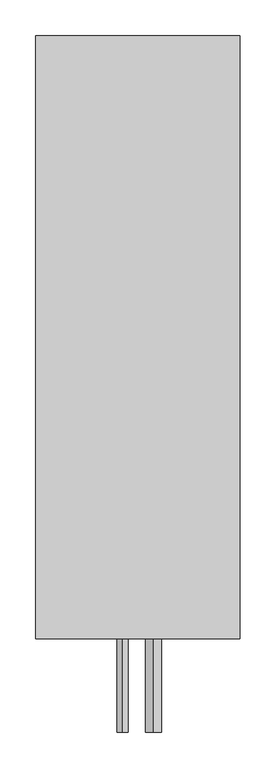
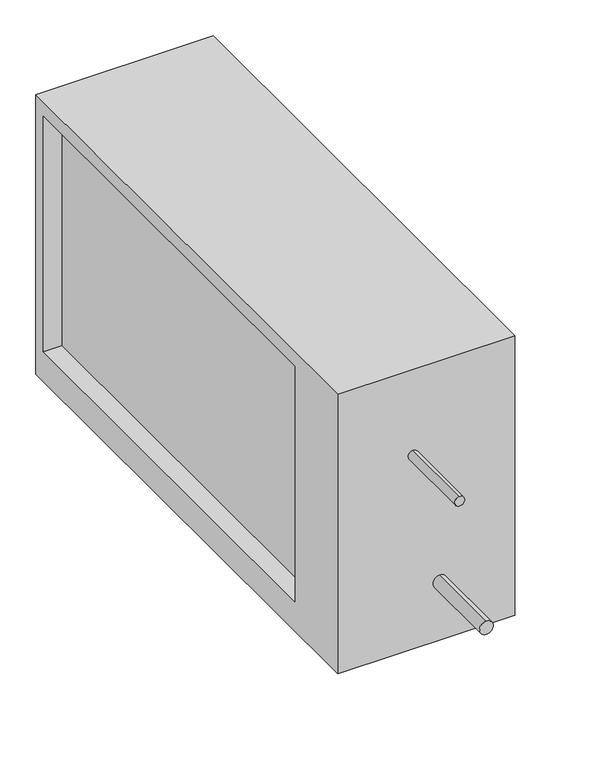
"""IFC4 building model written with IfcOpenShell, lengths in millimetres: proxy geometry, СВ_ВоздухоохладительФреоновый_КанальныйПрямоугольный_200-1000_SPC-F : SPC-F-700x400-R."""

from ifc_helpers import new_model, si_unit, point, frame, frame_2d, origin, place, context, project, spatial, polyline, circle_curve, trimmed, segment, composite_curve, outline, extrude, source, transform, mapped, element, save


def mechanical_equipment_e8fbd39b(model_context):
    return source(origin(), model_context, "Body", "SweptSolid", [
        extrude(outline(polyline([(-470.0, -250.0), (-470.0, 225.0), (370.0, 225.0), (370.0, -250.0), (-470.0, -250.0)]), holes=[polyline([(-350.0, 200.0), (-350.0, -200.0), (350.0, -200.0), (350.0, 200.0), (-350.0, 200.0)])]), frame((-142.5, 0.0, 0.0), z_axis=(1.0, 0.0, 0.0), x_axis=(0.0, 1.0, 0.0)), (0.0, 0.0, 1.0), 285.0),
        extrude(outline(composite_curve([segment(trimmed(circle_curve(frame_2d((-150.0, 21.5)), 11.1), [point((-138.9, 21.5))], [point((-161.1, 21.5))], False, "CARTESIAN"), True, "CONTINUOUS"), segment(trimmed(circle_curve(frame_2d((-150.0, 21.5)), 11.1), [point((-161.1, 21.5))], [point((-138.9, 21.5))], False, "CARTESIAN"), True, "CONTINUOUS")], self_intersect=False)), frame((0.0, -600.0, 0.0), z_axis=(0.0, 1.0, 0.0), x_axis=(0.0, 0.0, 1.0)), (0.0, 0.0, 1.0), 130.0),
        extrude(outline(composite_curve([segment(trimmed(circle_curve(frame_2d((80.0, -21.5)), 7.95), [point((87.95, -21.5))], [point((72.05, -21.5))], False, "CARTESIAN"), True, "CONTINUOUS"), segment(trimmed(circle_curve(frame_2d((80.0, -21.5)), 7.95), [point((72.05, -21.5))], [point((87.95, -21.5))], False, "CARTESIAN"), True, "CONTINUOUS")], self_intersect=False)), frame((0.0, -600.0, 0.0), z_axis=(0.0, 1.0, 0.0), x_axis=(0.0, 0.0, 1.0)), (0.0, 0.0, 1.0), 130.0),
        extrude(outline(composite_curve([segment(trimmed(circle_curve(frame_2d((0.0, -430.0)), 11.0), [point((-11.0, -430.0))], [point((11.0, -430.0))], False, "CARTESIAN"), True, "CONTINUOUS"), segment(trimmed(circle_curve(frame_2d((0.0, -430.0)), 11.0), [point((11.0, -430.0))], [point((-11.0, -430.0))], False, "CARTESIAN"), True, "CONTINUOUS")], self_intersect=False)), frame((0.0, 0.0, -270.0), z_axis=(0.0, 0.0, 1.0), x_axis=(1.0, 0.0, 0.0)), (0.0, 0.0, 1.0), 20.0),
        extrude(outline(polyline([(112.5, 350.0), (112.5, -350.0), (-112.5, -350.0), (-112.5, 350.0), (112.5, 350.0)])), frame((0.0, 0.0, -200.0), z_axis=(0.0, 0.0, 1.0), x_axis=(1.0, 0.0, 0.0)), (0.0, 0.0, 1.0), 400.0),
    ])


if __name__ == "__main__":
    model = new_model("IFC4")
    model_context = context("Model", 3, world=origin())
    ifc_project = project(units=[si_unit("LENGTHUNIT", "METRE", prefix="MILLI")], contexts=[model_context])
    site = spatial("IfcSite", under=ifc_project)
    building = spatial("IfcBuilding", under=site)
    placement = place(None, origin())
    mechanical_equipment_shape = mechanical_equipment_e8fbd39b(model_context)
    element("IfcBuildingElementProxy", 1, Name="СВ_ВоздухоохладительФреоновый_КанальныйПрямоугольный_200-1000_SPC-F : SPC-F-700x400-R", ObjectType="СВ_ВоздухоохладительФреоновый_КанальныйПрямоугольный_200-1000_SPC-F : SPC-F-700x400-R", at=placement, inside=building, context=model_context, shape_type="MappedRepresentation", body=[
        mapped(mechanical_equipment_shape, transform((0.0, 0.0, 0.0), x_axis=(1.0, 0.0, 0.0), y_axis=(0.0, 1.0, 0.0), z_axis=(0.0, 0.0, 1.0))),
    ])
    save(model, "model.ifc")
